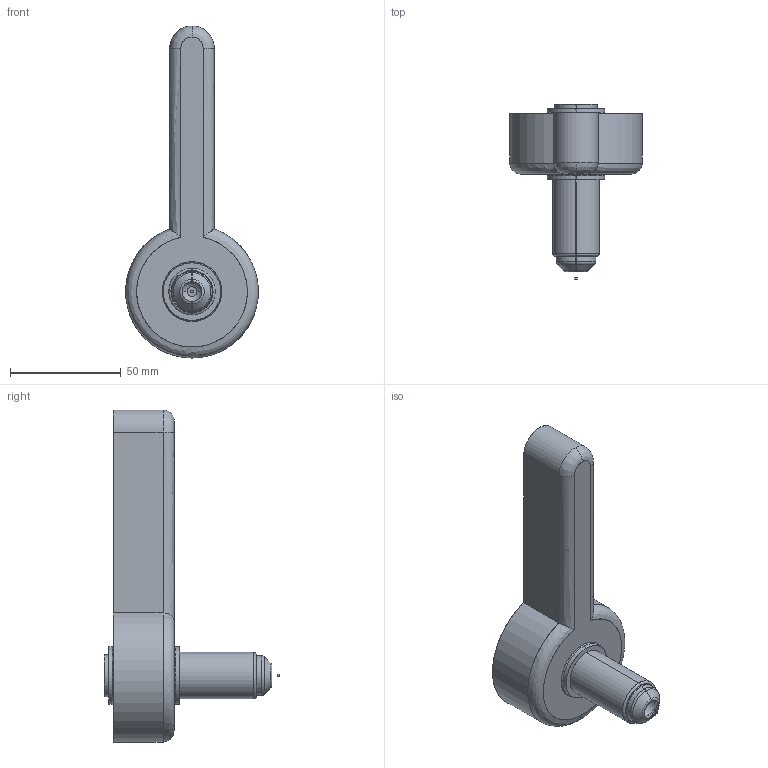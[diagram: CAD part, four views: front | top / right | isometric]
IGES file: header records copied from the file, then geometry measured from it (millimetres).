
Start section: SolidWorks IGES file using analytic representation for surfaces
Global section: file name: C:\Documents and Settings\ws-20\Desktop\TEM\Sede UGER2501-S-A C-45 L-77 Ød-1.0.IGS; native system: SolidWorks 2012; preprocessor: SolidWorks 2012; author: ws-20; date: 120405.111745; units: millimetre
Bounding box: 60 x 79.11 x 150 mm (x, y, z)
Surface area: 22521.7 mm2 (no closed solid volume)
Topology: 0 solids, 0 shells, 47 faces, 718 edges, 718 vertices
Faces by surface type: revolution 27, bspline 20
